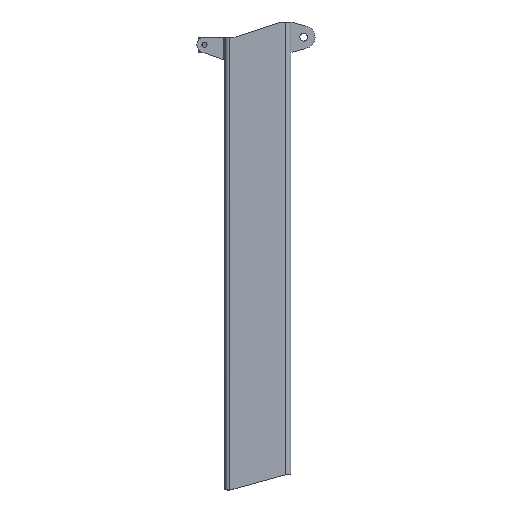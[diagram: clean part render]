
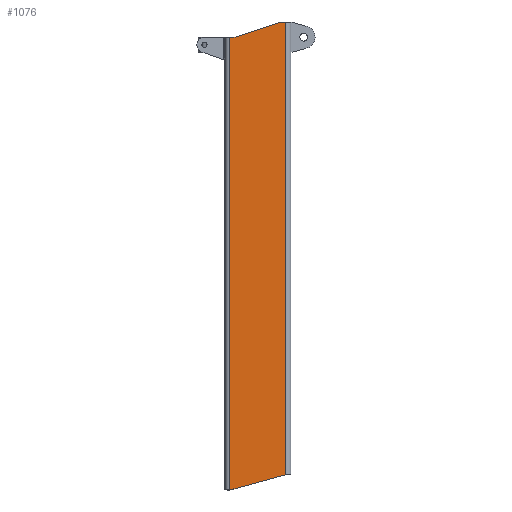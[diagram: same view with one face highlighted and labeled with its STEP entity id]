
A CAD part, front view. The second image highlights one B-rep face of the part: STEP entity #1076.
In plain terms, the highlighted planar face has unit normal (0, -1, 0).
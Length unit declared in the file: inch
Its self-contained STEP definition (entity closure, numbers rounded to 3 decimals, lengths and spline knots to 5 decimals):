
#52=PLANE('',#1177);
#89=FACE_OUTER_BOUND('',#149,.T.);
#149=EDGE_LOOP('',(#800,#801,#802,#803,#804,#805));
#236=LINE('',#1682,#342);
#241=LINE('',#1694,#347);
#245=LINE('',#1707,#351);
#259=LINE('',#1740,#365);
#260=LINE('',#1742,#366);
#261=LINE('',#1743,#367);
#342=VECTOR('',#1332,11.40175);
#347=VECTOR('',#1341,9.48683);
#351=VECTOR('',#1353,1.);
#365=VECTOR('',#1379,89.);
#366=VECTOR('',#1380,1.);
#367=VECTOR('',#1381,89.);
#493=VERTEX_POINT('',#1679);
#494=VERTEX_POINT('',#1681);
#497=VERTEX_POINT('',#1688);
#499=VERTEX_POINT('',#1692);
#504=VERTEX_POINT('',#1706);
#518=VERTEX_POINT('',#1741);
#599=EDGE_CURVE('',#493,#494,#236,.T.);
#605=EDGE_CURVE('',#499,#497,#241,.T.);
#611=EDGE_CURVE('',#504,#497,#245,.T.);
#629=EDGE_CURVE('',#493,#504,#259,.T.);
#630=EDGE_CURVE('',#518,#499,#260,.T.);
#631=EDGE_CURVE('',#518,#494,#261,.T.);
#800=ORIENTED_EDGE('',*,*,#599,.F.);
#801=ORIENTED_EDGE('',*,*,#629,.T.);
#802=ORIENTED_EDGE('',*,*,#611,.T.);
#803=ORIENTED_EDGE('',*,*,#605,.F.);
#804=ORIENTED_EDGE('',*,*,#630,.F.);
#805=ORIENTED_EDGE('',*,*,#631,.T.);
#1076=ADVANCED_FACE('',(#89),#52,.F.);
#1177=AXIS2_PLACEMENT_3D('',#1739,#1377,#1378);
#1332=DIRECTION('',(-0.965,0.,-0.263));
#1341=DIRECTION('',(0.949,0.,0.316));
#1353=DIRECTION('',(-1.,0.,0.));
#1377=DIRECTION('center_axis',(0.,1.,0.));
#1378=DIRECTION('ref_axis',(0.,0.,1.));
#1379=DIRECTION('',(0.,0.,1.));
#1380=DIRECTION('',(1.,0.,0.));
#1381=DIRECTION('',(0.,0.,-1.));
#1679=CARTESIAN_POINT('',(5.5,-5.,-90.24409));
#1681=CARTESIAN_POINT('',(-5.5,-5.,-93.24409));
#1682=CARTESIAN_POINT('',(5.5,-5.,-90.24409));
#1688=CARTESIAN_POINT('',(4.5,-5.,-1.24409));
#1692=CARTESIAN_POINT('',(-4.5,-5.,-4.24409));
#1694=CARTESIAN_POINT('',(-4.5,-5.,-4.24409));
#1706=CARTESIAN_POINT('',(5.5,-5.,-1.24409));
#1707=CARTESIAN_POINT('',(5.5,-5.,-1.24409));
#1739=CARTESIAN_POINT('Origin',(0.,-5.,-47.24409));
#1740=CARTESIAN_POINT('',(5.5,-5.,-90.24409));
#1741=CARTESIAN_POINT('',(-5.5,-5.,-4.24409));
#1742=CARTESIAN_POINT('',(-5.5,-5.,-4.24409));
#1743=CARTESIAN_POINT('',(-5.5,-5.,-4.24409));
